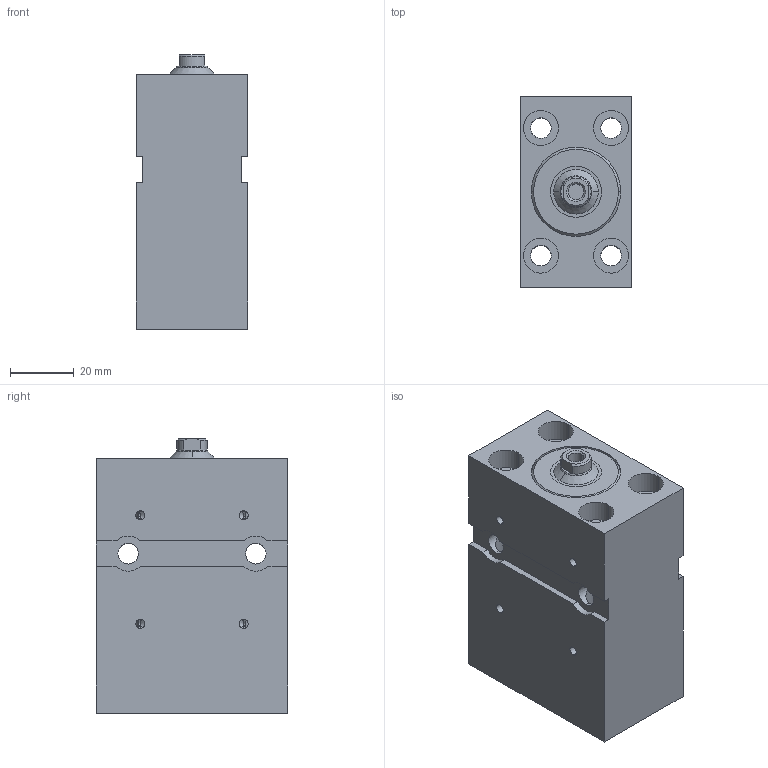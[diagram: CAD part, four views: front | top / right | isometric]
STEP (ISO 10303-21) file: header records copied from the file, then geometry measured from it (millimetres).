
FILE_DESCRIPTION (( 'STEP AP203' ), '1' );
FILE_NAME ('BZ_500.16_10.70.201.040.KBC30__DH_0_.STEP', '2022-05-10T12:30:22', ( '' ), ( '' ), 'SwSTEP 2.0', 'SolidWorks 2020', '' );
FILE_SCHEMA (( 'CONFIG_CONTROL_DESIGN' ));
Length unit declared in the file: millimetre
Products named in the file (6): _Gehaeuse f. BZ500.16_10.Fehler in IDBF.201.40Fehler in IDNT00(1330frei270000))6^BZ_500.16_10.70.201.040.KBC30__DH_0_(2)_BZ_500.16_10.70.201.040.KBC30__DH_0_; BZ_500.16_10.70.201.040.KBC30__DH_0_(2)^BZ_500.16_10.70.201.040.KBC30__DH_0_; _Kolbenstange komplett f. BZ_RZ_FZ.16_10.xx.201.40(0_11 1 6 1 0 0 6 12 0 0 0)0^BZ_500.16_10.70.201.040.KBC30__DH_0_(2)_BZ_500.16_10.70.201.040.KBC30__DH_0_; _Verschraubung komplett mit Dichtung f. BZ_RZ_FZ.16_10.201, Art.-Nr._ 042485(201)^BZ_500.16_10.70.201.040.KBC30__DH_0_(2)_BZ_500.16_10.70.201.040.KBC30__DH_0_; BZ_500.16_10.70.201.040.KBC30__DH_0_; _Dichtungssatz f. BZ_RZ_FZ.16_10.xx.201.40 Artikelnr._ 013286(0)^BZ_500.16_10.70.201.040.KBC30__DH_0_(2)_BZ_500.16_10.70.201.040.KBC30__DH_0_
Assembly tree (5 placements, depth 3):
  BZ_500.16_10.70.201.040.KBC30__DH_0_
    BZ_500.16_10.70.201.040.KBC30__DH_0_(2)^BZ_500.16_10.70.201.040.KBC30__DH_0_
      _Gehaeuse f. BZ500.16_10.Fehler in IDBF.201.40Fehler in IDNT00(1330frei270000))6^BZ_500.16_10.70.201.040.KBC30__DH_0_(2)_BZ_500.16_10.70.201.040.KBC30__DH_0_
      _Verschraubung komplett mit Dichtung f. BZ_RZ_FZ.16_10.201, Art.-Nr._ 042485(201)^BZ_500.16_10.70.201.040.KBC30__DH_0_(2)_BZ_500.16_10.70.201.040.KBC30__DH_0_
      _Dichtungssatz f. BZ_RZ_FZ.16_10.xx.201.40 Artikelnr._ 013286(0)^BZ_500.16_10.70.201.040.KBC30__DH_0_(2)_BZ_500.16_10.70.201.040.KBC30__DH_0_
      _Kolbenstange komplett f. BZ_RZ_FZ.16_10.xx.201.40(0_11 1 6 1 0 0 6 12 0 0 0)0^BZ_500.16_10.70.201.040.KBC30__DH_0_(2)_BZ_500.16_10.70.201.040.KBC30__DH_0_
Bounding box: 35 x 60 x 86 mm (x, y, z)
Volume: 143288.9 mm3; surface area: 40228.3 mm2
Topology: 4 solids, 4 shells, 178 faces, 466 edges, 284 vertices
Faces by surface type: cylinder 101, plane 47, cone 30
Entity records: 6587 total; most frequent: CARTESIAN_POINT 1570, DIRECTION 958, ORIENTED_EDGE 900, EDGE_CURVE 450, AXIS2_PLACEMENT_3D 379, VERTEX_POINT 284, EDGE_LOOP 226, LINE 200
